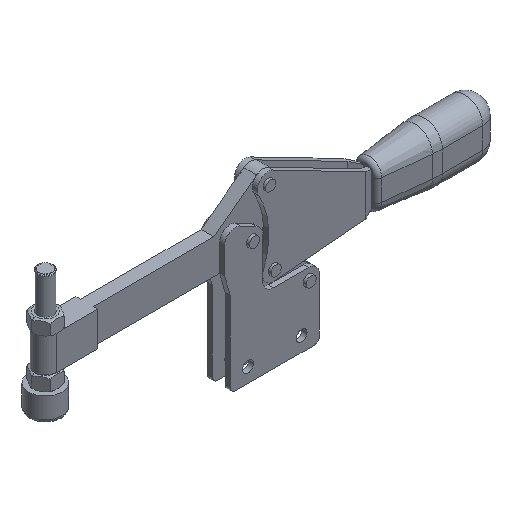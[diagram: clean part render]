
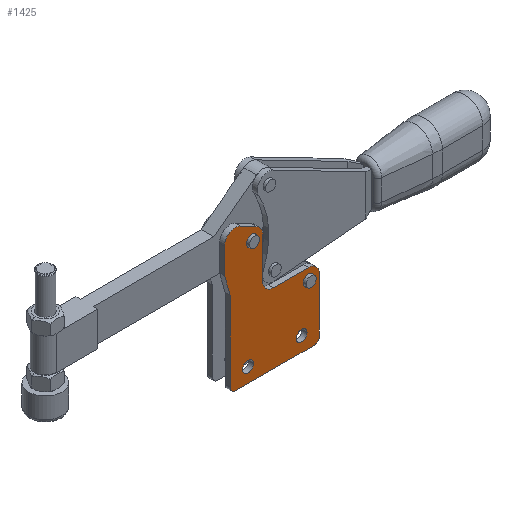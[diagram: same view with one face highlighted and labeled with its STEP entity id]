
A CAD part, isometric view. The second image highlights one B-rep face of the part: STEP entity #1425.
In plain terms, the highlighted planar face has unit normal (0, -1, 0).
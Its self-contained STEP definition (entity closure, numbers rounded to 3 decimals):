
#729=CARTESIAN_POINT('POINT45',(46.25,0.,
   0.));
#730=VERTEX_POINT('VERTEX45',#729);
#748=CARTESIAN_POINT('POINT48',(37.75,0.,0.
   ));
#749=VERTEX_POINT('VERTEX48',#748);
#756=CARTESIAN_POINT('POS82',(42.,0.,0.));
#757=DIRECTION('DIR123',(0.,1.,0.));
#758=DIRECTION('DIR124',(1.,0.,0.));
#759=AXIS2_PLACEMENT_3D('AXIS42',#756,#757,#758);
#760=CIRCLE('ELLIPSE22',#759,4.25);
#761=EDGE_CURVE('EDGE70',#730,#749,#760,.T.);
#772=EDGE_CURVE('EDGE71',#749,#730,#760,.T.);
#780=CARTESIAN_POINT('POINT49',(4.25,0.,0.
   ));
#781=VERTEX_POINT('VERTEX49',#780);
#799=CARTESIAN_POINT('POINT52',(-4.25,0.,0.
   ));
#800=VERTEX_POINT('VERTEX52',#799);
#807=CARTESIAN_POINT('POS87',(0.,0.,0.));
#808=DIRECTION('DIR131',(0.,1.,0.));
#809=DIRECTION('DIR132',(1.,0.,0.));
#810=AXIS2_PLACEMENT_3D('AXIS45',#807,#808,#809);
#811=CIRCLE('ELLIPSE24',#810,4.25);
#812=EDGE_CURVE('EDGE76',#781,#800,#811,.T.);
#823=EDGE_CURVE('EDGE77',#800,#781,#811,.T.);
#841=CARTESIAN_POINT('POINT55',(-14.,0.,
   -7.25));
#842=VERTEX_POINT('VERTEX55',#841);
#849=CARTESIAN_POINT('POINT56',(-14.,0.,55.23));
#850=VERTEX_POINT('VERTEX56',#849);
#851=CARTESIAN_POINT('POS91',(-14.,0.,44.984))
   ;
#852=DIRECTION('DIR137',(0.,0.,-1.));
#853=VECTOR('VEC45',#852,1.);
#854=LINE('STRAIGHT45',#851,#853);
#855=EDGE_CURVE('EDGE81',#850,#842,#854,.T.);
#880=CARTESIAN_POINT('POINT58',(-18.5,0.,71.04));
#881=VERTEX_POINT('VERTEX58',#880);
#882=CARTESIAN_POINT('POS95',(-12.583,
   0.,50.252));
#883=DIRECTION('DIR142',(0.274,0.,
   -0.962));
#884=VECTOR('VEC48',#883,1.);
#885=LINE('STRAIGHT48',#882,#884);
#886=EDGE_CURVE('EDGE84',#881,#850,#885,.T.);
#911=CARTESIAN_POINT('POINT60',(-18.5,0.,
   90.933));
#912=VERTEX_POINT('VERTEX60',#911);
#913=CARTESIAN_POINT('POS99',(-18.5,0.,
   90.933));
#914=DIRECTION('DIR147',(0.,0.,1.));
#915=VECTOR('VEC51',#914,1.);
#916=LINE('STRAIGHT51',#913,#915);
#917=EDGE_CURVE('EDGE87',#881,#912,#916,.T.);
#943=CARTESIAN_POINT('POINT62',(-6.,0.,
   98.433));
#944=VERTEX_POINT('VERTEX62',#943);
#945=CARTESIAN_POINT('POS103',(-10.,0.,
   90.933));
#946=DIRECTION('DIR153',(0.,1.,0.));
#947=DIRECTION('DIR154',(0.471,0.,
   0.882));
#948=AXIS2_PLACEMENT_3D('AXIS51',#945,#946,#947);
#949=CIRCLE('ELLIPSE26',#948,8.5);
#950=EDGE_CURVE('EDGE90',#912,#944,#949,.T.);
#975=CARTESIAN_POINT('POINT64',(7.,0.,
   91.5));
#976=VERTEX_POINT('VERTEX64',#975);
#977=CARTESIAN_POINT('POS107',(7.,0.,91.5)
   );
#978=DIRECTION('DIR159',(0.882,0.,
   -0.471));
#979=VECTOR('VEC55',#978,1.);
#980=LINE('STRAIGHT55',#977,#979);
#981=EDGE_CURVE('EDGE93',#944,#976,#980,.T.);
#1007=CARTESIAN_POINT('POINT66',(11.5,0.,
   84.));
#1008=VERTEX_POINT('VERTEX66',#1007);
#1009=CARTESIAN_POINT('POS111',(3.,0.,84.))
   ;
#1010=DIRECTION('DIR165',(0.,1.,0.));
#1011=DIRECTION('DIR166',(1.,0.,0.));
#1012=AXIS2_PLACEMENT_3D('AXIS55',#1009,#1010,#1011);
#1013=CIRCLE('ELLIPSE28',#1012,8.5);
#1014=EDGE_CURVE('EDGE96',#976,#1008,#1013,.T.);
#1039=CARTESIAN_POINT('POINT68',(11.5,0.,52.));
#1040=VERTEX_POINT('VERTEX68',#1039);
#1041=CARTESIAN_POINT('POS115',(11.5,0.,52.));
#1042=DIRECTION('DIR171',(0.,0.,-1.));
#1043=VECTOR('VEC59',#1042,1.);
#1044=LINE('STRAIGHT59',#1041,#1043);
#1045=EDGE_CURVE('EDGE99',#1008,#1040,#1044,.T.);
#1071=CARTESIAN_POINT('POINT70',(20.,0.,43.5));
#1072=VERTEX_POINT('VERTEX70',#1071);
#1073=CARTESIAN_POINT('POS119',(20.,0.,52.));
#1074=DIRECTION('DIR177',(0.,-1.,0.));
#1075=DIRECTION('DIR178',(0.,0.,-1.));
#1076=AXIS2_PLACEMENT_3D('AXIS59',#1073,#1074,#1075);
#1077=CIRCLE('ELLIPSE30',#1076,8.5);
#1078=EDGE_CURVE('EDGE102',#1040,#1072,#1077,.T.);
#1103=CARTESIAN_POINT('POINT72',(47.5,0.,43.5));
#1104=VERTEX_POINT('VERTEX72',#1103);
#1105=CARTESIAN_POINT('POS123',(47.5,0.,43.5));
#1106=DIRECTION('DIR183',(1.,0.,0.));
#1107=VECTOR('VEC63',#1106,1.);
#1108=LINE('STRAIGHT63',#1105,#1107);
#1109=EDGE_CURVE('EDGE105',#1072,#1104,#1108,.T.);
#1135=CARTESIAN_POINT('POINT74',(56.,0.,35.));
#1136=VERTEX_POINT('VERTEX74',#1135);
#1137=CARTESIAN_POINT('POS127',(47.5,0.,35.));
#1138=DIRECTION('DIR189',(0.,1.,0.));
#1139=DIRECTION('DIR190',(1.,0.,0.));
#1140=AXIS2_PLACEMENT_3D('AXIS63',#1137,#1138,#1139);
#1141=CIRCLE('ELLIPSE32',#1140,8.5);
#1142=EDGE_CURVE('EDGE108',#1104,#1136,#1141,.T.);
#1167=CARTESIAN_POINT('POINT76',(56.,0.,
   -7.25));
#1168=VERTEX_POINT('VERTEX76',#1167);
#1169=CARTESIAN_POINT('POS131',(56.,0.,-11.5));
#1170=DIRECTION('DIR195',(0.,0.,-1.));
#1171=VECTOR('VEC67',#1170,1.);
#1172=LINE('STRAIGHT67',#1169,#1171);
#1173=EDGE_CURVE('EDGE111',#1136,#1168,#1172,.T.);
#1199=CARTESIAN_POINT('POINT78',(51.75,0.,-11.5));
#1200=VERTEX_POINT('VERTEX78',#1199);
#1201=CARTESIAN_POINT('POS135',(51.75,0.,
   -7.25));
#1202=DIRECTION('DIR201',(0.,-1.,0.));
#1203=DIRECTION('DIR202',(1.,0.,0.));
#1204=AXIS2_PLACEMENT_3D('AXIS67',#1201,#1202,#1203);
#1205=CIRCLE('ELLIPSE34',#1204,4.25);
#1206=EDGE_CURVE('EDGE114',#1200,#1168,#1205,.T.);
#1231=CARTESIAN_POINT('POINT80',(-9.75,0.,
   -11.5));
#1232=VERTEX_POINT('VERTEX80',#1231);
#1233=CARTESIAN_POINT('POS139',(-18.5,0.,
   -11.5));
#1234=DIRECTION('DIR207',(-1.,0.,0.));
#1235=VECTOR('VEC71',#1234,1.);
#1236=LINE('STRAIGHT71',#1233,#1235);
#1237=EDGE_CURVE('EDGE117',#1200,#1232,#1236,.T.);
#1261=CARTESIAN_POINT('POS143',(-9.75,0.,
   -7.25));
#1262=DIRECTION('DIR213',(0.,-1.,0.));
#1263=DIRECTION('DIR214',(0.,0.,-1.));
#1264=AXIS2_PLACEMENT_3D('AXIS71',#1261,#1262,#1263);
#1265=CIRCLE('ELLIPSE36',#1264,4.25);
#1266=EDGE_CURVE('EDGE120',#842,#1232,#1265,.T.);
#1277=CARTESIAN_POINT('POINT81',(51.75,0.,35.));
#1278=VERTEX_POINT('VERTEX81',#1277);
#1296=CARTESIAN_POINT('POINT84',(43.25,0.,35.));
#1297=VERTEX_POINT('VERTEX84',#1296);
#1304=CARTESIAN_POINT('POS148',(47.5,0.,35.));
#1305=DIRECTION('DIR221',(0.,1.,0.));
#1306=DIRECTION('DIR222',(1.,0.,0.));
#1307=AXIS2_PLACEMENT_3D('AXIS74',#1304,#1305,#1306);
#1308=CIRCLE('ELLIPSE38',#1307,4.25);
#1309=EDGE_CURVE('EDGE124',#1278,#1297,#1308,.T.);
#1320=EDGE_CURVE('EDGE125',#1297,#1278,#1308,.T.);
#1377=CARTESIAN_POINT('POINT87',(-1.25,0.,
   84.));
#1378=VERTEX_POINT('VERTEX87',#1377);
#1379=CARTESIAN_POINT('POINT88',(7.25,0.,
   84.));
#1380=VERTEX_POINT('VERTEX88',#1379);
#1381=CARTESIAN_POINT('POS152',(3.,0.,84.)
   );
#1382=DIRECTION('DIR229',(0.,1.,0.));
#1383=DIRECTION('DIR230',(1.,0.,0.));
#1384=AXIS2_PLACEMENT_3D('AXIS78',#1381,#1382,#1383);
#1385=CIRCLE('ELLIPSE40',#1384,4.25);
#1386=EDGE_CURVE('EDGE129',#1378,#1380,#1385,.T.);
#1387=ORIENTED_EDGE('COEDGE235',*,*,#1386,.T.);
#1388=EDGE_CURVE('EDGE130',#1380,#1378,#1385,.T.);
#1389=ORIENTED_EDGE('COEDGE236',*,*,#1388,.T.);
#1390=EDGE_LOOP('NONE',(#1387,#1389));
#1391=FACE_BOUND('LOOP1',#1390,.T.);
#1392=ORIENTED_EDGE('COEDGE237',*,*,#1320,.T.);
#1393=ORIENTED_EDGE('COEDGE238',*,*,#1309,.T.);
#1394=EDGE_LOOP('NONE',(#1392,#1393));
#1395=FACE_BOUND('LOOP1',#1394,.T.);
#1396=ORIENTED_EDGE('COEDGE239',*,*,#1266,.T.);
#1397=ORIENTED_EDGE('COEDGE240',*,*,#1237,.F.);
#1398=ORIENTED_EDGE('COEDGE241',*,*,#1206,.T.);
#1399=ORIENTED_EDGE('COEDGE242',*,*,#1173,.F.);
#1400=ORIENTED_EDGE('COEDGE243',*,*,#1142,.F.);
#1401=ORIENTED_EDGE('COEDGE244',*,*,#1109,.F.);
#1402=ORIENTED_EDGE('COEDGE245',*,*,#1078,.F.);
#1403=ORIENTED_EDGE('COEDGE246',*,*,#1045,.F.);
#1404=ORIENTED_EDGE('COEDGE247',*,*,#1014,.F.);
#1405=ORIENTED_EDGE('COEDGE248',*,*,#981,.F.);
#1406=ORIENTED_EDGE('COEDGE249',*,*,#950,.F.);
#1407=ORIENTED_EDGE('COEDGE250',*,*,#917,.F.);
#1408=ORIENTED_EDGE('COEDGE251',*,*,#886,.T.);
#1409=ORIENTED_EDGE('COEDGE252',*,*,#855,.T.);
#1410=EDGE_LOOP('NONE',(#1396,#1397,#1398,#1399,#1400,#1401,#1402,#1403,
   #1404,#1405,#1406,#1407,#1408,#1409));
#1411=FACE_BOUND('LOOP1',#1410,.T.);
#1412=ORIENTED_EDGE('COEDGE253',*,*,#823,.T.);
#1413=ORIENTED_EDGE('COEDGE254',*,*,#812,.T.);
#1414=EDGE_LOOP('NONE',(#1412,#1413));
#1415=FACE_BOUND('LOOP1',#1414,.T.);
#1416=ORIENTED_EDGE('COEDGE255',*,*,#772,.T.);
#1417=ORIENTED_EDGE('COEDGE256',*,*,#761,.T.);
#1418=EDGE_LOOP('NONE',(#1416,#1417));
#1419=FACE_BOUND('LOOP1',#1418,.T.);
#1420=CARTESIAN_POINT('POS153',(11.863,0.,
   34.738));
#1421=DIRECTION('DIR231',(0.,-1.,0.));
#1422=DIRECTION('DIR232',(1.,0.,0.));
#1423=AXIS2_PLACEMENT_3D('AXIS79',#1420,#1421,#1422);
#1424=PLANE('PLANE20',#1423);
#1425=ADVANCED_FACE('FACE46',(#1391,#1395,#1411,#1415,#1419),#1424,.T.);
